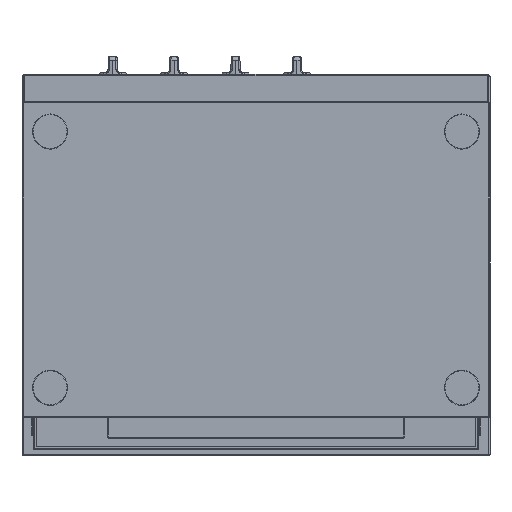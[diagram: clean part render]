
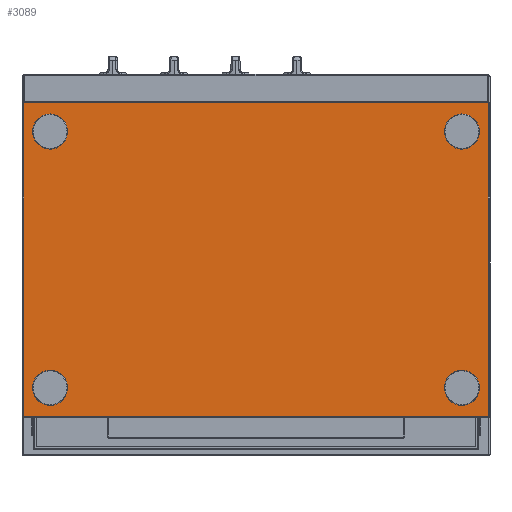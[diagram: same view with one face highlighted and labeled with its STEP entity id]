
A CAD part, front view. The second image highlights one B-rep face of the part: STEP entity #3089.
In plain terms, the highlighted planar face has unit normal (0, -1, 0).
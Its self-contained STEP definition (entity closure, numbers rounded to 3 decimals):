
#875=CARTESIAN_POINT('',(352.,-352.5,-219.));
#876=DIRECTION('',(0.,-1.,0.));
#877=DIRECTION('',(1.,0.,0.));
#878=AXIS2_PLACEMENT_3D('',#875,#876,#877);
#880=CARTESIAN_POINT('',(352.,-352.5,-219.));
#881=DIRECTION('',(0.,-1.,0.));
#882=DIRECTION('',(-1.,0.,0.));
#883=AXIS2_PLACEMENT_3D('',#880,#881,#882);
#885=CARTESIAN_POINT('',(352.,-352.5,219.));
#886=DIRECTION('',(0.,-1.,0.));
#887=DIRECTION('',(1.,0.,0.));
#888=AXIS2_PLACEMENT_3D('',#885,#886,#887);
#890=CARTESIAN_POINT('',(352.,-352.5,219.));
#891=DIRECTION('',(0.,-1.,0.));
#892=DIRECTION('',(-1.,0.,0.));
#893=AXIS2_PLACEMENT_3D('',#890,#891,#892);
#895=CARTESIAN_POINT('',(-352.,-352.5,-219.));
#896=DIRECTION('',(0.,1.,0.));
#897=DIRECTION('',(-1.,0.,0.));
#898=AXIS2_PLACEMENT_3D('',#895,#896,#897);
#900=CARTESIAN_POINT('',(-352.,-352.5,-219.));
#901=DIRECTION('',(0.,1.,0.));
#902=DIRECTION('',(1.,0.,0.));
#903=AXIS2_PLACEMENT_3D('',#900,#901,#902);
#905=CARTESIAN_POINT('',(-352.,-352.5,219.));
#906=DIRECTION('',(0.,1.,0.));
#907=DIRECTION('',(-1.,0.,0.));
#908=AXIS2_PLACEMENT_3D('',#905,#906,#907);
#910=CARTESIAN_POINT('',(-352.,-352.5,219.));
#911=DIRECTION('',(0.,1.,0.));
#912=DIRECTION('',(1.,0.,0.));
#913=AXIS2_PLACEMENT_3D('',#910,#911,#912);
#915=DIRECTION('',(0.,0.,-1.));
#916=VECTOR('',#915,536.4);
#917=CARTESIAN_POINT('',(397.2,-352.5,268.2));
#918=LINE('',#917,#916);
#919=DIRECTION('',(-1.,0.,0.));
#920=VECTOR('',#919,794.4);
#921=CARTESIAN_POINT('',(397.2,-352.5,-268.2));
#922=LINE('',#921,#920);
#923=DIRECTION('',(0.,0.,1.));
#924=VECTOR('',#923,536.4);
#925=CARTESIAN_POINT('',(-397.2,-352.5,-268.2));
#926=LINE('',#925,#924);
#927=DIRECTION('',(-1.,0.,0.));
#928=VECTOR('',#927,794.4);
#929=CARTESIAN_POINT('',(397.2,-352.5,268.2));
#930=LINE('',#929,#928);
#1454=CARTESIAN_POINT('',(382.,-352.5,-219.));
#1455=CARTESIAN_POINT('',(322.,-352.5,-219.));
#1456=VERTEX_POINT('',#1454);
#1457=VERTEX_POINT('',#1455);
#1486=CARTESIAN_POINT('',(397.2,-352.5,268.2));
#1487=CARTESIAN_POINT('',(397.2,-352.5,-268.2));
#1488=VERTEX_POINT('',#1486);
#1489=VERTEX_POINT('',#1487);
#1492=CARTESIAN_POINT('',(-397.2,-352.5,268.2));
#1493=VERTEX_POINT('',#1492);
#1496=CARTESIAN_POINT('',(-397.2,-352.5,-268.2));
#1497=VERTEX_POINT('',#1496);
#1554=CARTESIAN_POINT('',(382.,-352.5,219.));
#1555=CARTESIAN_POINT('',(322.,-352.5,219.));
#1556=VERTEX_POINT('',#1554);
#1557=VERTEX_POINT('',#1555);
#1562=CARTESIAN_POINT('',(-382.,-352.5,-219.));
#1563=VERTEX_POINT('',#1562);
#1564=CARTESIAN_POINT('',(-322.,-352.5,-219.));
#1565=VERTEX_POINT('',#1564);
#1570=CARTESIAN_POINT('',(-382.,-352.5,219.));
#1571=VERTEX_POINT('',#1570);
#1572=CARTESIAN_POINT('',(-322.,-352.5,219.));
#1573=VERTEX_POINT('',#1572);
#3052=CARTESIAN_POINT('',(-399.,-352.5,270.));
#3053=DIRECTION('',(0.,-1.,0.));
#3054=DIRECTION('',(0.,0.,-1.));
#3055=AXIS2_PLACEMENT_3D('',#3052,#3053,#3054);
#3056=PLANE('',#3055);
#3058=ORIENTED_EDGE('',*,*,#3057,.T.);
#3060=ORIENTED_EDGE('',*,*,#3059,.T.);
#3061=ORIENTED_EDGE('',*,*,#3020,.T.);
#3062=ORIENTED_EDGE('',*,*,#3043,.F.);
#3063=EDGE_LOOP('',(#3058,#3060,#3061,#3062));
#3064=FACE_OUTER_BOUND('',#3063,.F.);
#3066=ORIENTED_EDGE('',*,*,#3065,.T.);
#3068=ORIENTED_EDGE('',*,*,#3067,.T.);
#3069=EDGE_LOOP('',(#3066,#3068));
#3070=FACE_BOUND('',#3069,.F.);
#3072=ORIENTED_EDGE('',*,*,#3071,.F.);
#3074=ORIENTED_EDGE('',*,*,#3073,.F.);
#3075=EDGE_LOOP('',(#3072,#3074));
#3076=FACE_BOUND('',#3075,.F.);
#3078=ORIENTED_EDGE('',*,*,#3077,.F.);
#3080=ORIENTED_EDGE('',*,*,#3079,.F.);
#3081=EDGE_LOOP('',(#3078,#3080));
#3082=FACE_BOUND('',#3081,.F.);
#3084=ORIENTED_EDGE('',*,*,#3083,.T.);
#3086=ORIENTED_EDGE('',*,*,#3085,.T.);
#3087=EDGE_LOOP('',(#3084,#3086));
#3088=FACE_BOUND('',#3087,.F.);
#879=CIRCLE('',#878,30.);
#884=CIRCLE('',#883,30.);
#889=CIRCLE('',#888,30.);
#894=CIRCLE('',#893,30.);
#899=CIRCLE('',#898,30.);
#904=CIRCLE('',#903,30.);
#909=CIRCLE('',#908,30.);
#914=CIRCLE('',#913,30.);
#3020=EDGE_CURVE('',#1497,#1493,#926,.T.);
#3043=EDGE_CURVE('',#1488,#1493,#930,.T.);
#3057=EDGE_CURVE('',#1488,#1489,#918,.T.);
#3059=EDGE_CURVE('',#1489,#1497,#922,.T.);
#3065=EDGE_CURVE('',#1556,#1557,#889,.T.);
#3067=EDGE_CURVE('',#1557,#1556,#894,.T.);
#3071=EDGE_CURVE('',#1563,#1565,#899,.T.);
#3073=EDGE_CURVE('',#1565,#1563,#904,.T.);
#3077=EDGE_CURVE('',#1571,#1573,#909,.T.);
#3079=EDGE_CURVE('',#1573,#1571,#914,.T.);
#3083=EDGE_CURVE('',#1456,#1457,#879,.T.);
#3085=EDGE_CURVE('',#1457,#1456,#884,.T.);
#3089=ADVANCED_FACE('',(#3064,#3070,#3076,#3082,#3088),#3056,.T.);
